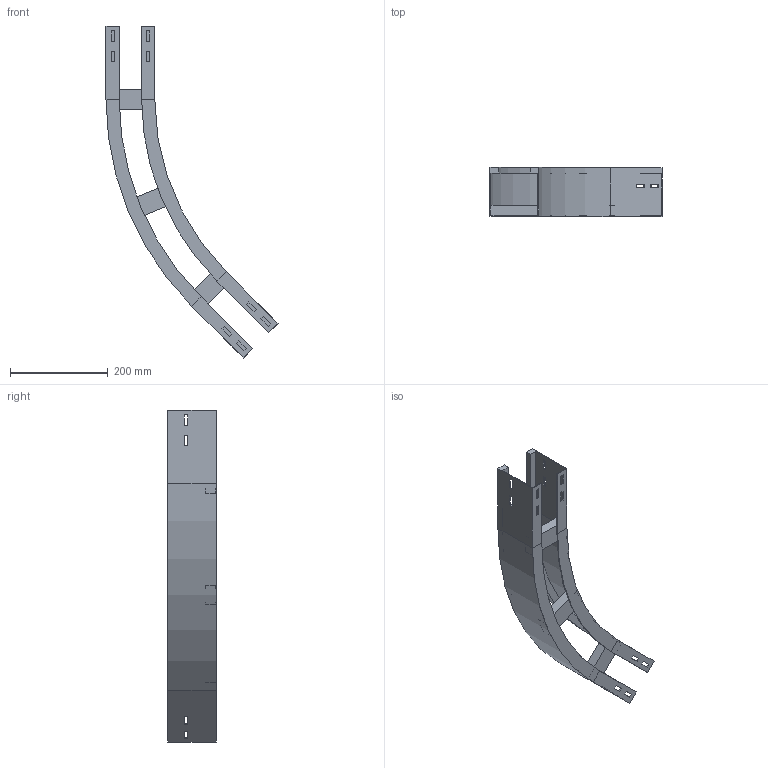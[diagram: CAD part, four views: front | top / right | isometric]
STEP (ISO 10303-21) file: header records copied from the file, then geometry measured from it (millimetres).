
FILE_DESCRIPTION (( 'STEP AP214' ), '1' );
FILE_NAME ('11B5D100.step', '2025-02-21T15:11:37', ( '' ), ( '' ), 'SwSTEP 2.0', 'SolidWorks 2023', '' );
FILE_SCHEMA (( 'AUTOMOTIVE_DESIGN' ));
Length unit declared in the file: millimetre
Products named in the file (4): A2_LONGH.ESTERNO 45°_H100_R500+100; 11B5D100; TRAVERSINO_100; A2_LONGH.INTERNO 45°_H100_R500
Assembly tree (5 placements, depth 2):
  11B5D100
    A2_LONGH.INTERNO 45°_H100_R500
    A2_LONGH.ESTERNO 45°_H100_R500+100
    TRAVERSINO_100  x3
Bounding box: 352.51 x 100 x 680.33 mm (x, y, z)
Volume: 875412.6 mm3; surface area: 457090.3 mm2
Topology: 5 solids, 5 shells, 134 faces, 340 edges, 216 vertices
Faces by surface type: plane 126, cylinder 8
Entity records: 3821 total; most frequent: CARTESIAN_POINT 646, ORIENTED_EDGE 632, DIRECTION 592, EDGE_CURVE 316, LINE 300, VECTOR 300, VERTEX_POINT 200, EDGE_LOOP 154
